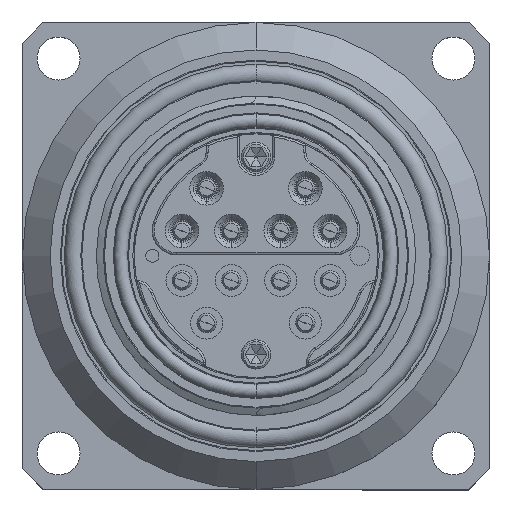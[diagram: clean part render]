
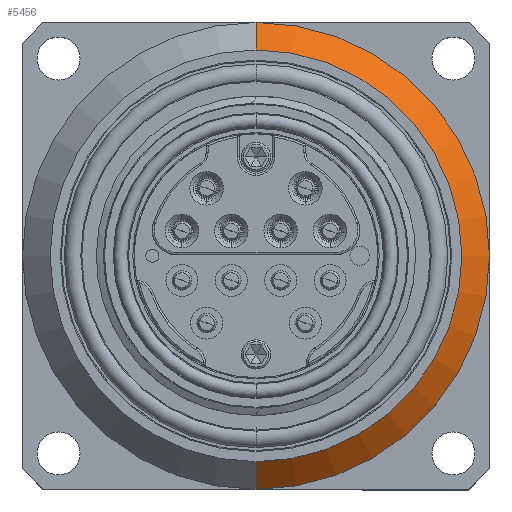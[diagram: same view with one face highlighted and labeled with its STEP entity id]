
A CAD part, top view. The second image highlights one B-rep face of the part: STEP entity #5456.
In plain terms, the highlighted conical face has half-angle 45 degrees and reference radius 30.035 mm.
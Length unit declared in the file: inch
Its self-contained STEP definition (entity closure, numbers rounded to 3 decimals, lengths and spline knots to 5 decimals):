
#1544 = ORIENTED_EDGE ( 'NONE', *, *, #18632, .T. ) ;
#1933 = CARTESIAN_POINT ( 'NONE',  ( 0., 0., -0.69822 ) ) ;
#2387 = ORIENTED_EDGE ( 'NONE', *, *, #4559, .F. ) ;
#3486 = CIRCLE ( 'NONE', #5902, 1.0425 ) ;
#3549 = CARTESIAN_POINT ( 'NONE',  ( 0., 1.1825, -0.69822 ) ) ;
#4559 = EDGE_CURVE ( 'NONE', #15945, #11671, #15715, .T. ) ;
#4561 = DIRECTION ( 'NONE',  ( 0., -0.707, -0.707 ) ) ;
#5381 = CARTESIAN_POINT ( 'NONE',  ( 0., 1.0425, -0.55822 ) ) ;
#5456 = ADVANCED_FACE ( 'NONE', ( #7278 ), #5832, .T. ) ;
#5758 = DIRECTION ( 'NONE',  ( 0., 1., 0. ) ) ;
#5832 = CONICAL_SURFACE ( 'NONE', #14034, 1.1825, 0.785 ) ;
#5902 = AXIS2_PLACEMENT_3D ( 'NONE', #9572, #12248, #13966 ) ;
#6022 = CARTESIAN_POINT ( 'NONE',  ( 0., -1.1825, -0.69822 ) ) ;
#6378 = VERTEX_POINT ( 'NONE', #6022 ) ;
#6717 = ORIENTED_EDGE ( 'NONE', *, *, #17156, .T. ) ;
#6867 = CIRCLE ( 'NONE', #11123, 1.1825 ) ;
#7038 = CARTESIAN_POINT ( 'NONE',  ( 0., 1.1825, -0.69822 ) ) ;
#7278 = FACE_OUTER_BOUND ( 'NONE', #7345, .T. ) ;
#7345 = EDGE_LOOP ( 'NONE', ( #1544, #6717, #11580, #2387 ) ) ;
#8851 = DIRECTION ( 'NONE',  ( 0., 0.707, -0.707 ) ) ;
#9140 = LINE ( 'NONE', #17410, #18093 ) ;
#9441 = DIRECTION ( 'NONE',  ( 0., 0., -1. ) ) ;
#9572 = CARTESIAN_POINT ( 'NONE',  ( 0., 0., -0.55822 ) ) ;
#10589 = DIRECTION ( 'NONE',  ( 0., 0., -1. ) ) ;
#10773 = DIRECTION ( 'NONE',  ( 0., 1., 0. ) ) ;
#11123 = AXIS2_PLACEMENT_3D ( 'NONE', #18067, #9441, #10773 ) ;
#11580 = ORIENTED_EDGE ( 'NONE', *, *, #16836, .F. ) ;
#11671 = VERTEX_POINT ( 'NONE', #3549 ) ;
#12248 = DIRECTION ( 'NONE',  ( 0., 0., -1. ) ) ;
#12528 = VERTEX_POINT ( 'NONE', #18201 ) ;
#13966 = DIRECTION ( 'NONE',  ( 0., 1., 0. ) ) ;
#14034 = AXIS2_PLACEMENT_3D ( 'NONE', #1933, #10589, #5758 ) ;
#15715 = LINE ( 'NONE', #7038, #15765 ) ;
#15765 = VECTOR ( 'NONE', #8851, 39.37008 ) ;
#15945 = VERTEX_POINT ( 'NONE', #5381 ) ;
#16836 = EDGE_CURVE ( 'NONE', #11671, #6378, #6867, .T. ) ;
#17156 = EDGE_CURVE ( 'NONE', #12528, #6378, #9140, .T. ) ;
#17410 = CARTESIAN_POINT ( 'NONE',  ( 0., -1.1825, -0.69822 ) ) ;
#18067 = CARTESIAN_POINT ( 'NONE',  ( 0., 0., -0.69822 ) ) ;
#18093 = VECTOR ( 'NONE', #4561, 39.37008 ) ;
#18201 = CARTESIAN_POINT ( 'NONE',  ( 0., -1.0425, -0.55822 ) ) ;
#18632 = EDGE_CURVE ( 'NONE', #15945, #12528, #3486, .T. ) ;
